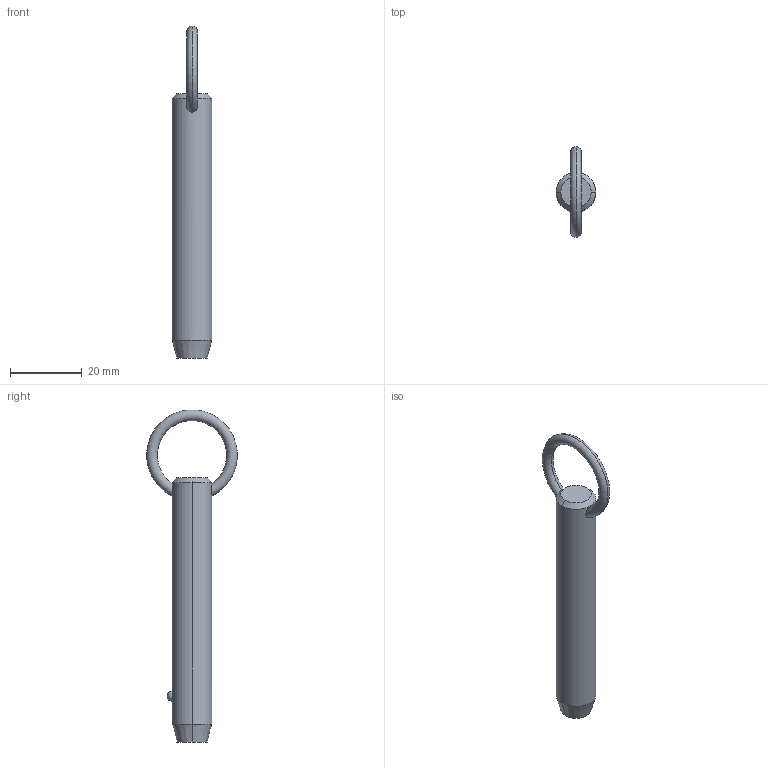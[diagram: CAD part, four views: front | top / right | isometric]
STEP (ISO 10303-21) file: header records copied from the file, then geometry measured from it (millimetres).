
FILE_DESCRIPTION (( 'STEP AP203' ), '1' );
FILE_NAME ('P1250.050-210.step', '2019-07-29T20:31:32', ( '' ), ( '' ), 'SwSTEP 2.0', 'SolidWorks 2017', '' );
FILE_SCHEMA (( 'CONFIG_CONTROL_DESIGN' ));
Length unit declared in the file: millimetre
Products named in the file (1): P1250.050-210
Bounding box: 11.1 x 25.32 x 92.85 mm (x, y, z)
Volume: 7433.9 mm3; surface area: 3229.7 mm2
Topology: 1 solids, 1 shells, 12 faces, 28 edges, 17 vertices
Faces by surface type: cone 4, torus 2, sphere 2, cylinder 2, plane 2
Entity records: 523 total; most frequent: CARTESIAN_POINT 190, DIRECTION 56, ORIENTED_EDGE 48, AXIS2_PLACEMENT_3D 25, EDGE_CURVE 24, EDGE_LOOP 15, VERTEX_POINT 15, CIRCLE 12
